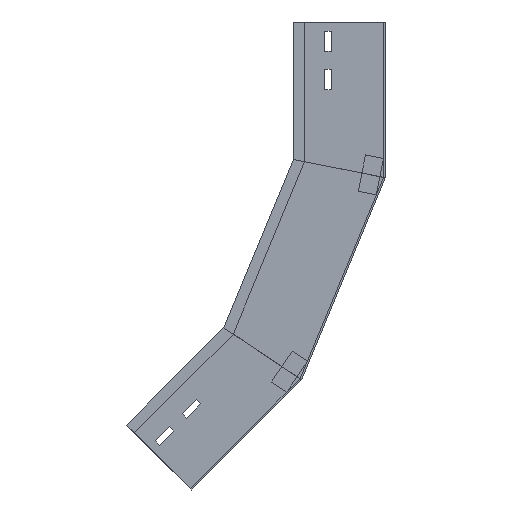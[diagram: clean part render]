
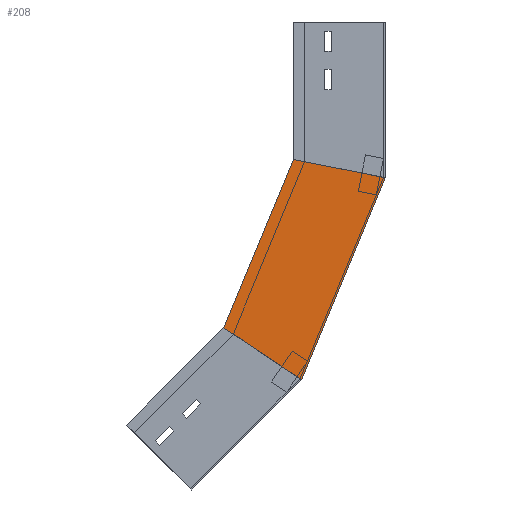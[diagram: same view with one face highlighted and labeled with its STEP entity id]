
A CAD part, left-side view. The second image highlights one B-rep face of the part: STEP entity #208.
In plain terms, the highlighted planar face has unit normal (-1, 0, 0) as drawn and (1, 0, 0) by its records, which use the part's own axes.
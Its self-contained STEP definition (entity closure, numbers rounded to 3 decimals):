
#22 = DIRECTION ( 'NONE',  ( 0., 0.383, -0.924 ) ) ;
#28 = VERTEX_POINT ( 'NONE', #883 ) ;
#48 = CARTESIAN_POINT ( 'NONE',  ( 0., 100., -149.709 ) ) ;
#61 = LINE ( 'NONE', #1207, #816 ) ;
#71 = VECTOR ( 'NONE', #1112, 1000. ) ;
#112 = VERTEX_POINT ( 'NONE', #48 ) ;
#119 = DIRECTION ( 'NONE',  ( 0., -0.831, -0.556 ) ) ;
#131 = CARTESIAN_POINT ( 'NONE',  ( 0., 129.74, -363.769 ) ) ;
#208 = ADVANCED_FACE ( 'NONE', ( #881 ), #535, .F. ) ;
#235 = ORIENTED_EDGE ( 'NONE', *, *, #264, .F. ) ;
#264 = EDGE_CURVE ( 'NONE', #112, #1188, #670, .T. ) ;
#315 = CARTESIAN_POINT ( 'NONE',  ( 0., 0., -169.6 ) ) ;
#360 = ORIENTED_EDGE ( 'NONE', *, *, #408, .F. ) ;
#408 = EDGE_CURVE ( 'NONE', #1188, #28, #561, .T. ) ;
#492 = VECTOR ( 'NONE', #22, 1000. ) ;
#535 = PLANE ( 'NONE',  #920 ) ;
#561 = LINE ( 'NONE', #131, #596 ) ;
#573 = CARTESIAN_POINT ( 'NONE',  ( 0., 175.893, -332.93 ) ) ;
#588 = ORIENTED_EDGE ( 'NONE', *, *, #934, .T. ) ;
#592 = CARTESIAN_POINT ( 'NONE',  ( 0., 0., -169.6 ) ) ;
#596 = VECTOR ( 'NONE', #119, 1000. ) ;
#670 = LINE ( 'NONE', #998, #71 ) ;
#816 = VECTOR ( 'NONE', #872, 1000. ) ;
#872 = DIRECTION ( 'NONE',  ( 0., -0.981, -0.195 ) ) ;
#881 = FACE_OUTER_BOUND ( 'NONE', #1177, .T. ) ;
#883 = CARTESIAN_POINT ( 'NONE',  ( 0., 91.117, -389.576 ) ) ;
#920 = AXIS2_PLACEMENT_3D ( 'NONE', #315, #1459, #1353 ) ;
#934 = EDGE_CURVE ( 'NONE', #112, #1242, #61, .T. ) ;
#998 = CARTESIAN_POINT ( 'NONE',  ( 0., 92.388, -131.332 ) ) ;
#1067 = CARTESIAN_POINT ( 'NONE',  ( 0., 0., -169.6 ) ) ;
#1112 = DIRECTION ( 'NONE',  ( 0., 0.383, -0.924 ) ) ;
#1160 = LINE ( 'NONE', #592, #492 ) ;
#1177 = EDGE_LOOP ( 'NONE', ( #235, #588, #1383, #360 ) ) ;
#1188 = VERTEX_POINT ( 'NONE', #573 ) ;
#1207 = CARTESIAN_POINT ( 'NONE',  ( 0., 32.452, -163.145 ) ) ;
#1242 = VERTEX_POINT ( 'NONE', #1067 ) ;
#1258 = EDGE_CURVE ( 'NONE', #1242, #28, #1160, .T. ) ;
#1353 = DIRECTION ( 'NONE',  ( 0., 0., 1. ) ) ;
#1383 = ORIENTED_EDGE ( 'NONE', *, *, #1258, .T. ) ;
#1459 = DIRECTION ( 'NONE',  ( -1., 0., 0. ) ) ;
